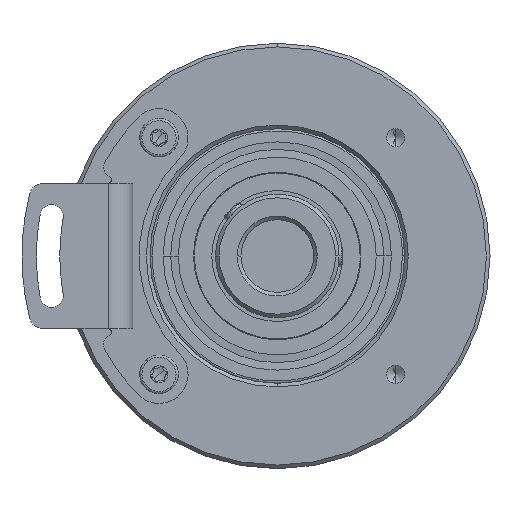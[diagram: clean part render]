
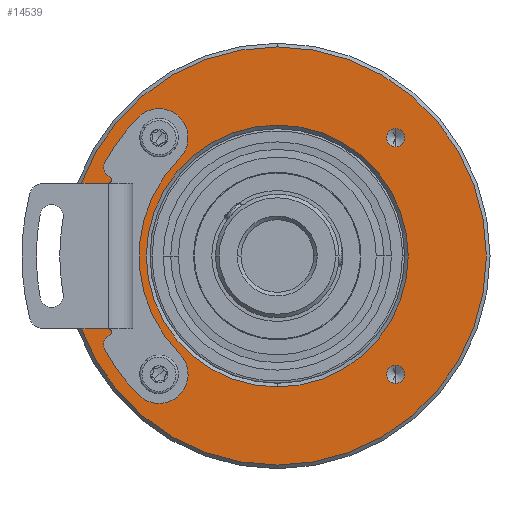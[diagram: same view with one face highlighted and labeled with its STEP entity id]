
A CAD part, front view. The second image highlights one B-rep face of the part: STEP entity #14539.
In plain terms, the highlighted planar face has unit normal (0, -1, 0).
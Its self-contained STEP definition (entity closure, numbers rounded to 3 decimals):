
#170 = DIRECTION ( 'NONE',  ( 0., -1., 0. ) ) ;
#593 = ORIENTED_EDGE ( 'NONE', *, *, #13453, .F. ) ;
#814 = CARTESIAN_POINT ( 'NONE',  ( 16.263, 0., -15.013 ) ) ;
#1123 = VERTEX_POINT ( 'NONE', #4759 ) ;
#1228 = EDGE_CURVE ( 'NONE', #4072, #1123, #13666, .T. ) ;
#1365 = VERTEX_POINT ( 'NONE', #20235 ) ;
#1738 = FACE_OUTER_BOUND ( 'NONE', #10449, .T. ) ;
#1989 = ORIENTED_EDGE ( 'NONE', *, *, #7024, .F. ) ;
#2077 = CIRCLE ( 'NONE', #2747, 1.25 ) ;
#2089 = ORIENTED_EDGE ( 'NONE', *, *, #5300, .T. ) ;
#2311 = DIRECTION ( 'NONE',  ( 0., 0., -1. ) ) ;
#2499 = EDGE_CURVE ( 'NONE', #11173, #3127, #18859, .T. ) ;
#2636 = CARTESIAN_POINT ( 'NONE',  ( 16.263, 0., 15.013 ) ) ;
#2686 = DIRECTION ( 'NONE',  ( 0., -1., 0. ) ) ;
#2747 = AXIS2_PLACEMENT_3D ( 'NONE', #21745, #11727, #19905 ) ;
#2798 = DIRECTION ( 'NONE',  ( 0., 0., -1. ) ) ;
#3042 = ORIENTED_EDGE ( 'NONE', *, *, #6782, .T. ) ;
#3127 = VERTEX_POINT ( 'NONE', #15658 ) ;
#3327 = FACE_BOUND ( 'NONE', #15907, .T. ) ;
#3351 = DIRECTION ( 'NONE',  ( 0., -1., 0. ) ) ;
#3689 = CIRCLE ( 'NONE', #19098, 18. ) ;
#3753 = CARTESIAN_POINT ( 'NONE',  ( 0., 0., 0. ) ) ;
#3847 = CARTESIAN_POINT ( 'NONE',  ( 0., 0., 0. ) ) ;
#4072 = VERTEX_POINT ( 'NONE', #20153 ) ;
#4140 = ORIENTED_EDGE ( 'NONE', *, *, #7841, .F. ) ;
#4180 = ORIENTED_EDGE ( 'NONE', *, *, #13564, .F. ) ;
#4248 = CIRCLE ( 'NONE', #14403, 1.25 ) ;
#4330 = DIRECTION ( 'NONE',  ( 0., 0., -1. ) ) ;
#4506 = CARTESIAN_POINT ( 'NONE',  ( -16.263, 0., -16.263 ) ) ;
#4685 = DIRECTION ( 'NONE',  ( 0., -1., 0. ) ) ;
#4759 = CARTESIAN_POINT ( 'NONE',  ( -16.263, 0., -17.513 ) ) ;
#4910 = ORIENTED_EDGE ( 'NONE', *, *, #1228, .F. ) ;
#5066 = CIRCLE ( 'NONE', #12562, 18. ) ;
#5293 = CIRCLE ( 'NONE', #17958, 1.25 ) ;
#5300 = EDGE_CURVE ( 'NONE', #3127, #11173, #15961, .T. ) ;
#5445 = VERTEX_POINT ( 'NONE', #12730 ) ;
#6314 = EDGE_CURVE ( 'NONE', #1365, #8939, #14021, .T. ) ;
#6381 = DIRECTION ( 'NONE',  ( 0., 0., -1. ) ) ;
#6607 = DIRECTION ( 'NONE',  ( 0., 0., -1. ) ) ;
#6766 = EDGE_LOOP ( 'NONE', ( #593, #4140 ) ) ;
#6772 = FACE_BOUND ( 'NONE', #17739, .T. ) ;
#6781 = EDGE_CURVE ( 'NONE', #13930, #15585, #5293, .T. ) ;
#6782 = EDGE_CURVE ( 'NONE', #7602, #21373, #3689, .T. ) ;
#6812 = DIRECTION ( 'NONE',  ( 0., 0., -1. ) ) ;
#7024 = EDGE_CURVE ( 'NONE', #8939, #1365, #2077, .T. ) ;
#7221 = DIRECTION ( 'NONE',  ( 0., 0., -1. ) ) ;
#7543 = FACE_BOUND ( 'NONE', #15936, .T. ) ;
#7602 = VERTEX_POINT ( 'NONE', #15681 ) ;
#7841 = EDGE_CURVE ( 'NONE', #8570, #5445, #13162, .T. ) ;
#7874 = AXIS2_PLACEMENT_3D ( 'NONE', #3847, #15637, #7221 ) ;
#7962 = DIRECTION ( 'NONE',  ( 0., -1., 0. ) ) ;
#8136 = EDGE_LOOP ( 'NONE', ( #21227, #1989 ) ) ;
#8446 = DIRECTION ( 'NONE',  ( 0., -1., 0. ) ) ;
#8570 = VERTEX_POINT ( 'NONE', #814 ) ;
#8897 = FACE_BOUND ( 'NONE', #6766, .T. ) ;
#8906 = ORIENTED_EDGE ( 'NONE', *, *, #10098, .T. ) ;
#8939 = VERTEX_POINT ( 'NONE', #16868 ) ;
#9589 = AXIS2_PLACEMENT_3D ( 'NONE', #17637, #2686, #12834 ) ;
#10098 = EDGE_CURVE ( 'NONE', #21373, #7602, #5066, .T. ) ;
#10201 = CARTESIAN_POINT ( 'NONE',  ( 0., 0., 18. ) ) ;
#10393 = DIRECTION ( 'NONE',  ( 0., 1., 0. ) ) ;
#10449 = EDGE_LOOP ( 'NONE', ( #2089, #10455 ) ) ;
#10455 = ORIENTED_EDGE ( 'NONE', *, *, #2499, .T. ) ;
#10496 = CARTESIAN_POINT ( 'NONE',  ( 16.263, 0., -16.263 ) ) ;
#10747 = PLANE ( 'NONE',  #13023 ) ;
#11042 = DIRECTION ( 'NONE',  ( 0., 1., 0. ) ) ;
#11119 = CARTESIAN_POINT ( 'NONE',  ( 16.263, 0., 16.263 ) ) ;
#11173 = VERTEX_POINT ( 'NONE', #13692 ) ;
#11711 = ORIENTED_EDGE ( 'NONE', *, *, #18456, .F. ) ;
#11727 = DIRECTION ( 'NONE',  ( 0., -1., 0. ) ) ;
#12178 = DIRECTION ( 'NONE',  ( 0., 0., -1. ) ) ;
#12562 = AXIS2_PLACEMENT_3D ( 'NONE', #3753, #10393, #18900 ) ;
#12696 = AXIS2_PLACEMENT_3D ( 'NONE', #16681, #3351, #6607 ) ;
#12730 = CARTESIAN_POINT ( 'NONE',  ( 16.263, 0., -17.513 ) ) ;
#12834 = DIRECTION ( 'NONE',  ( 0., 0., -1. ) ) ;
#13023 = AXIS2_PLACEMENT_3D ( 'NONE', #15602, #14093, #2311 ) ;
#13162 = CIRCLE ( 'NONE', #14469, 1.25 ) ;
#13209 = AXIS2_PLACEMENT_3D ( 'NONE', #16757, #8446, #6812 ) ;
#13274 = CIRCLE ( 'NONE', #13948, 1.25 ) ;
#13453 = EDGE_CURVE ( 'NONE', #5445, #8570, #4248, .T. ) ;
#13564 = EDGE_CURVE ( 'NONE', #1123, #4072, #13700, .T. ) ;
#13666 = CIRCLE ( 'NONE', #13209, 1.25 ) ;
#13692 = CARTESIAN_POINT ( 'NONE',  ( 0., 0., -28.75 ) ) ;
#13700 = CIRCLE ( 'NONE', #20731, 1.25 ) ;
#13930 = VERTEX_POINT ( 'NONE', #18852 ) ;
#13948 = AXIS2_PLACEMENT_3D ( 'NONE', #14393, #19380, #4330 ) ;
#14021 = CIRCLE ( 'NONE', #12696, 1.25 ) ;
#14093 = DIRECTION ( 'NONE',  ( 0., -1., 0. ) ) ;
#14101 = ORIENTED_EDGE ( 'NONE', *, *, #6781, .F. ) ;
#14393 = CARTESIAN_POINT ( 'NONE',  ( 16.263, 0., 16.263 ) ) ;
#14403 = AXIS2_PLACEMENT_3D ( 'NONE', #10496, #170, #12178 ) ;
#14464 = CARTESIAN_POINT ( 'NONE',  ( 0., 0., 0. ) ) ;
#14469 = AXIS2_PLACEMENT_3D ( 'NONE', #16591, #4685, #6381 ) ;
#14539 = ADVANCED_FACE ( 'NONE', ( #3327, #14654, #7543, #6772, #8897, #1738 ), #10747, .T. ) ;
#14654 = FACE_BOUND ( 'NONE', #8136, .T. ) ;
#15585 = VERTEX_POINT ( 'NONE', #2636 ) ;
#15602 = CARTESIAN_POINT ( 'NONE',  ( 0., 0., 0. ) ) ;
#15637 = DIRECTION ( 'NONE',  ( 0., -1., 0. ) ) ;
#15658 = CARTESIAN_POINT ( 'NONE',  ( 0., 0., 28.75 ) ) ;
#15681 = CARTESIAN_POINT ( 'NONE',  ( 0., 0., -18. ) ) ;
#15907 = EDGE_LOOP ( 'NONE', ( #3042, #8906 ) ) ;
#15936 = EDGE_LOOP ( 'NONE', ( #11711, #14101 ) ) ;
#15961 = CIRCLE ( 'NONE', #9589, 28.75 ) ;
#16026 = DIRECTION ( 'NONE',  ( 0., -1., 0. ) ) ;
#16591 = CARTESIAN_POINT ( 'NONE',  ( 16.263, 0., -16.263 ) ) ;
#16681 = CARTESIAN_POINT ( 'NONE',  ( -16.263, 0., 16.263 ) ) ;
#16757 = CARTESIAN_POINT ( 'NONE',  ( -16.263, 0., -16.263 ) ) ;
#16868 = CARTESIAN_POINT ( 'NONE',  ( -16.263, 0., 17.513 ) ) ;
#17637 = CARTESIAN_POINT ( 'NONE',  ( 0., 0., 0. ) ) ;
#17739 = EDGE_LOOP ( 'NONE', ( #4180, #4910 ) ) ;
#17928 = DIRECTION ( 'NONE',  ( 0., 0., -1. ) ) ;
#17958 = AXIS2_PLACEMENT_3D ( 'NONE', #11119, #16026, #21201 ) ;
#18456 = EDGE_CURVE ( 'NONE', #15585, #13930, #13274, .T. ) ;
#18852 = CARTESIAN_POINT ( 'NONE',  ( 16.263, 0., 17.513 ) ) ;
#18859 = CIRCLE ( 'NONE', #7874, 28.75 ) ;
#18900 = DIRECTION ( 'NONE',  ( 0., 0., -1. ) ) ;
#19098 = AXIS2_PLACEMENT_3D ( 'NONE', #14464, #11042, #17928 ) ;
#19380 = DIRECTION ( 'NONE',  ( 0., -1., 0. ) ) ;
#19905 = DIRECTION ( 'NONE',  ( 0., 0., -1. ) ) ;
#20153 = CARTESIAN_POINT ( 'NONE',  ( -16.263, 0., -15.013 ) ) ;
#20235 = CARTESIAN_POINT ( 'NONE',  ( -16.263, 0., 15.013 ) ) ;
#20731 = AXIS2_PLACEMENT_3D ( 'NONE', #4506, #7962, #2798 ) ;
#21201 = DIRECTION ( 'NONE',  ( 0., 0., -1. ) ) ;
#21227 = ORIENTED_EDGE ( 'NONE', *, *, #6314, .F. ) ;
#21373 = VERTEX_POINT ( 'NONE', #10201 ) ;
#21745 = CARTESIAN_POINT ( 'NONE',  ( -16.263, 0., 16.263 ) ) ;
